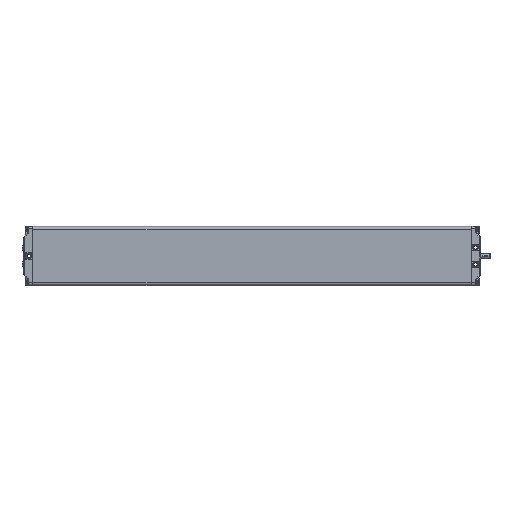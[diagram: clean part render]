
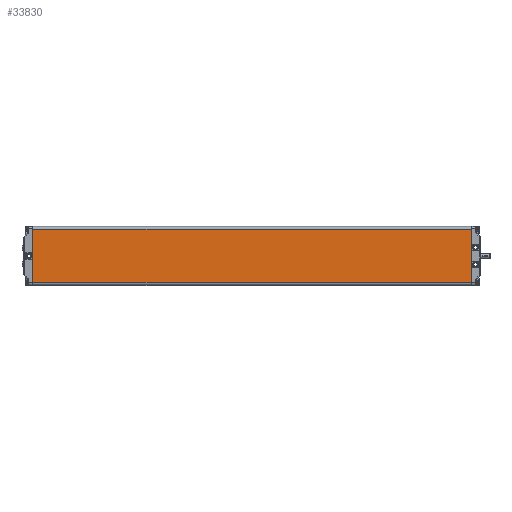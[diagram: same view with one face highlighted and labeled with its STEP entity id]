
A CAD part, top view. The second image highlights one B-rep face of the part: STEP entity #33830.
In plain terms, the highlighted planar face has unit normal (0, 0, 1).
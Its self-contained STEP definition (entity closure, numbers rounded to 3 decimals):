
#3518=LINE('',#72180,#4803);
#3519=LINE('',#72183,#4804);
#3520=LINE('',#72185,#4805);
#3521=LINE('',#72187,#4806);
#4803=VECTOR('',#41042,1000.);
#4804=VECTOR('',#41043,1000.);
#4805=VECTOR('',#41044,1000.);
#4806=VECTOR('',#41045,1000.);
#10100=ORIENTED_EDGE('',*,*,#16165,.T.);
#10101=ORIENTED_EDGE('',*,*,#16166,.T.);
#10102=ORIENTED_EDGE('',*,*,#16167,.T.);
#10103=ORIENTED_EDGE('',*,*,#16168,.T.);
#16165=EDGE_CURVE('',#19423,#19424,#3518,.F.);
#16166=EDGE_CURVE('',#19424,#19425,#3519,.T.);
#16167=EDGE_CURVE('',#19425,#19426,#3520,.T.);
#16168=EDGE_CURVE('',#19426,#19423,#3521,.F.);
#19423=VERTEX_POINT('',#72181);
#19424=VERTEX_POINT('',#72182);
#19425=VERTEX_POINT('',#72184);
#19426=VERTEX_POINT('',#72186);
#22909=EDGE_LOOP('',(#10100,#10101,#10102,#10103));
#24889=FACE_BOUND('',#22909,.T.);
#26023=PLANE('',#36088);
#33830=ADVANCED_FACE('',(#24889),#26023,.T.);
#36088=AXIS2_PLACEMENT_3D('',#72179,#41040,#41041);
#41040=DIRECTION('',(0.,0.,1.));
#41041=DIRECTION('',(1.,0.,0.));
#41042=DIRECTION('',(0.,-1.,0.));
#41043=DIRECTION('',(-1.,0.,0.));
#41044=DIRECTION('',(0.,-1.,0.));
#41045=DIRECTION('',(-1.,0.,0.));
#72179=CARTESIAN_POINT('',(60.,893.5,30.));
#72180=CARTESIAN_POINT('',(54.,893.5,30.));
#72181=CARTESIAN_POINT('',(54.,0.5,30.));
#72182=CARTESIAN_POINT('',(54.,893.,30.));
#72183=CARTESIAN_POINT('',(60.,893.,30.));
#72184=CARTESIAN_POINT('',(-54.,893.,30.));
#72185=CARTESIAN_POINT('',(-54.,893.5,30.));
#72186=CARTESIAN_POINT('',(-54.,0.5,30.));
#72187=CARTESIAN_POINT('',(54.,0.5,30.));
